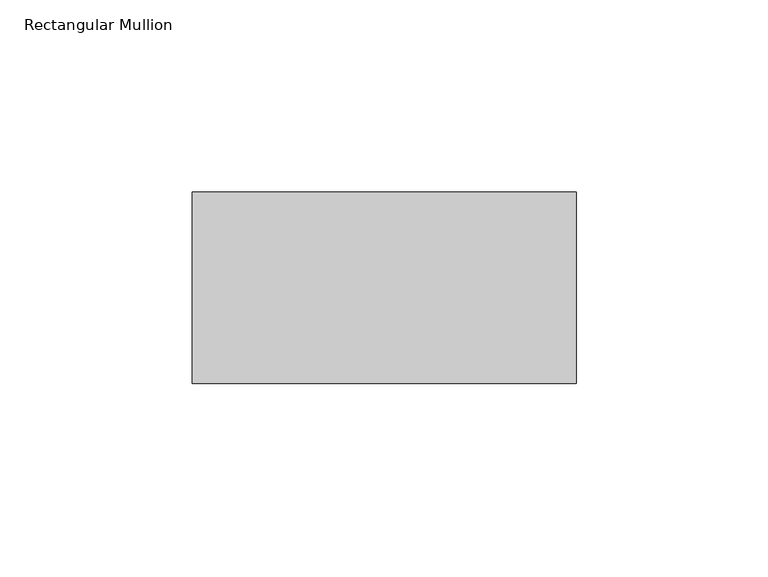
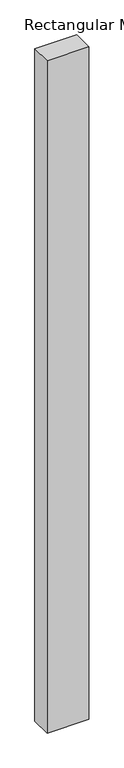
"""IFC4 building model written with IfcOpenShell, lengths in millimetres: member geometry, Rectangular Mullion : Mullion_Curtain Wall_Generic Showcase_50x100mm."""

from ifc_helpers import new_model, si_unit, frame, origin, place, context, project, spatial, polyline, outline, extrude, source, transform, mapped, element, save


def rectangular_mullion_c2dba91a(model_context):
    return source(origin(), model_context, "Body", "SweptSolid", [
        extrude(outline(polyline([(0.0, 50.0), (0.0, 0.0), (-100.0, 0.0), (-100.0, 50.0), (0.0, 50.0)])), frame((0.0, 0.0, -1694.45347), z_axis=(0.0, 0.0, 1.0), x_axis=(1.0, 0.0, 0.0)), (0.0, 0.0, 1.0), 1694.45347),
    ])


if __name__ == "__main__":
    model = new_model("IFC4")
    model_context = context("Model", 3, world=origin())
    ifc_project = project(units=[si_unit("LENGTHUNIT", "METRE", prefix="MILLI")], contexts=[model_context])
    site = spatial("IfcSite", under=ifc_project)
    building = spatial("IfcBuilding", under=site)
    placement = place(None, origin())
    rectangular_mullion_shape = rectangular_mullion_c2dba91a(model_context)
    element("IfcMember", 1, ObjectType="Rectangular Mullion : Mullion_Curtain Wall_Generic Showcase_50x100mm", at=placement, inside=building, context=model_context, shape_type="MappedRepresentation", body=[
        mapped(rectangular_mullion_shape, transform((0.0, 0.0, 0.0), x_axis=(1.0, 0.0, 0.0), y_axis=(0.0, 1.0, 0.0), z_axis=(0.0, 0.0, 1.0))),
    ])
    save(model, "model.ifc")
